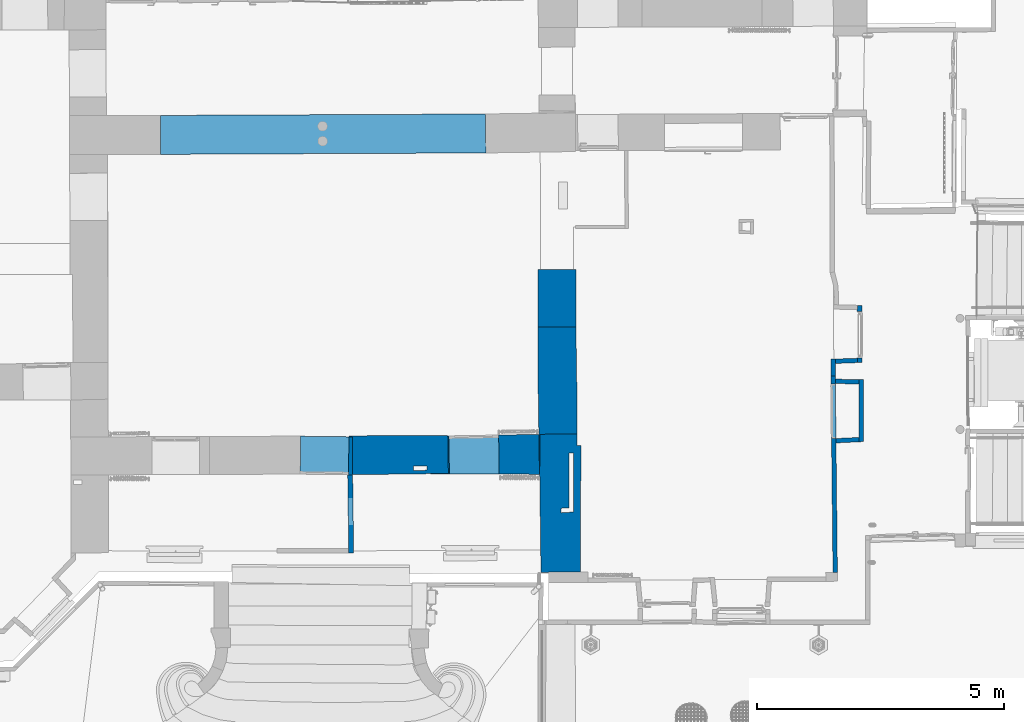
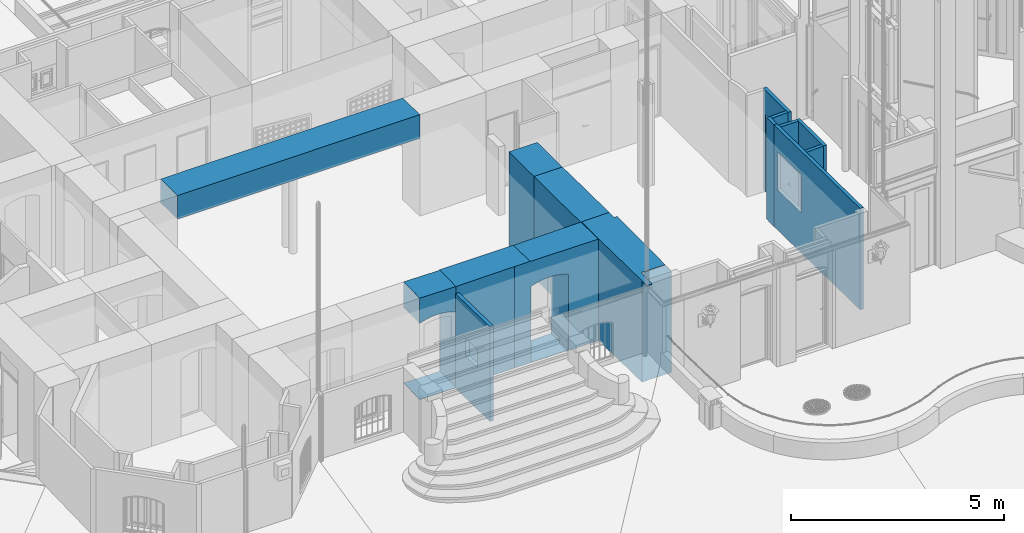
# One storey, part 18 of 133: 15 walls, 5 openings.
"""IFC2X3 building model written with IfcOpenShell, lengths in centimetres."""

from ifc_helpers import new_model, entity, si_unit, converted_unit, point, direction, frame, frame_2d, origin, origin_with_axes, place, context, subcontext, project, spatial, polyline, circle_curve, trimmed, segment, composite_curve, outline, extrude, clip, bounded_halfspace, shape, material, layer, layer_set, layer_usage, type_object, element, save


model = new_model("IFC2X3")

# Units and contexts
model_context = context("Model", 3, precision=0.0001, world=origin(), true_north=direction((0.225632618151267, 0.974212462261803, 0.0)))
body_context = subcontext(model_context, "Body", "Model", "MODEL_VIEW")
footprint_context = subcontext(model_context, "FootPrint", "Model", "MODEL_VIEW")
profile_context = subcontext(model_context, "Profile", "Model", "MODEL_VIEW")
ifc_project = project(units=[si_unit("LENGTHUNIT", "METRE", prefix="CENTI"), si_unit("AREAUNIT", "SQUARE_METRE", prefix="CENTI"), si_unit("VOLUMEUNIT", "CUBIC_METRE", prefix="CENTI"), converted_unit("PLANEANGLEUNIT", "DEGREE", entity("IfcRatioMeasure", 0.0174532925), si_unit("PLANEANGLEUNIT", "RADIAN"), dimensions=[0, 0, 0, 0, 0, 0, 0])], contexts=[model_context])

# Site, building, storey
site_placement = place(None, origin_with_axes())
site = spatial("IfcSite", under=ifc_project, at=site_placement, Name="Default Site", CompositionType="ELEMENT")
building_placement = place(site_placement, origin_with_axes())
building = spatial("IfcBuilding", under=site, at=building_placement, Name="Default Building", CompositionType="ELEMENT")
storey_placement = place(building_placement, frame((0.0, 0.0, -291.400371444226), z_axis=(0.0, 0.0, 1.0), x_axis=(1.0, 0.0, 0.0)))
storey = spatial("IfcBuildingStorey", under=building, at=storey_placement, Name="Rez-de-Jardin", CompositionType="ELEMENT", Elevation=-291.400371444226)

# Wall, opening
ifc_material = material(Name="<aucun>")
ifc_layer_1 = layer(ifc_material, 9.0)
ifc_layer_set_1 = layer_set([ifc_layer_1], Name="default")
ifc_layer_usage_1 = layer_usage(ifc_layer_set_1, "AXIS2", "POSITIVE", -4.5)
wall_type_1 = type_object("IfcWallType", Name="default 90", PredefinedType="NOTDEFINED", material=ifc_layer_set_1)
wall_1_placement = place(storey_placement, frame((882.115995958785, -521.164110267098, -1.94511073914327e-11), z_axis=(0.0, 0.0, 1.0), x_axis=(-0.00597783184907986, 0.99998213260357, 0.0)))
wall_1 = element("IfcWallStandardCase", 1, at=wall_1_placement, inside=storey, type_object=wall_type_1, material=ifc_layer_usage_1, Name="Enveloppe 594285", context=body_context, shape_type="SweptSolid", body=[
    extrude(outline(polyline([(102.64015241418, 4.50000000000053), (4.36391653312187, 4.50000000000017), (-4.63184186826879, 4.22371973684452), (-4.3623673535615, -4.55044169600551), (111.34330851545, -4.72054005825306), (111.635339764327, 4.20571351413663), (102.64015241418, 4.50000000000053)])), frame((0.0, 0.0, 1.77635683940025e-13), z_axis=(0.0, 0.0, 1.0), x_axis=(1.0, 0.0, 0.0)), (0.0, 0.0, 1.0), 291.413221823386),
])
opening_1_placement = place(wall_1_placement, frame((4.39772920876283, -1.13686837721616e-13, 1.94515514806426e-11), z_axis=(0.0, 0.0, 1.0), x_axis=(-0.999998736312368, 0.00158977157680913, 0.0)))
cartesian_point_1 = entity("IfcCartesianPoint", [0.0, -1.77635683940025e-13, 221.404157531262])
cartesian_point_2 = entity("IfcCartesianPoint", [-94.8801034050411, -0.150837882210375, 221.404157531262])
cartesian_point_3 = entity("IfcCartesianPoint", [-94.8729494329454, -4.65083219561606])
element("IfcOpeningElement", 2, at=opening_1_placement, cuts=wall_1, Name="4294966325_12", ObjectType="Opening", shapes=[
    shape(body_context, "Body", "SweptSolid", [extrude(outline(composite_curve([segment(polyline([(-0.00715397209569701, 221.404157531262), (-0.00715397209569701, -4.44089209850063e-14), (94.8729494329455, -4.44089209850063e-14), (94.8729494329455, 221.404157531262)]), True, "CONTINUOUS"), segment(trimmed(circle_curve(frame_2d((47.4328977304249, 117.040719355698), x_axis=(1.0, 0.0)), 114.63983348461), [point((94.8729494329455, 221.404157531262))], [point((-0.00715397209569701, 221.404157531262))], True, "CARTESIAN"), True, "CONTINUOUS")], self_intersect=False)), frame((0.0, -14.5, 0.0), z_axis=(0.0, 1.0, 0.0), x_axis=(-1.0, 0.0, 0.0)), (0.0, 0.0, 1.0), 29.2205400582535)]),
    shape(profile_context, "Profile", "GeometricCurveSet", [entity("IfcGeometricCurveSet", [entity("IfcCompositeCurve", [entity("IfcCompositeCurveSegment", "CONTINUOUS", True, entity("IfcPolyline", [cartesian_point_1, entity("IfcCartesianPoint", [0.0, -1.77635683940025e-13, -4.44089209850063e-14]), entity("IfcCartesianPoint", [-94.8801034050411, -0.150837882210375, -4.44089209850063e-14]), cartesian_point_2])), entity("IfcCompositeCurveSegment", "CONTINUOUS", True, entity("IfcTrimmedCurve", entity("IfcCircle", entity("IfcAxis2Placement3D", entity("IfcCartesianPoint", [-47.4400517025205, -0.0754189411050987, 117.040719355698]), entity("IfcDirection", [-0.00158977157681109, 0.999998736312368, -1.72789648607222e-14]), entity("IfcDirection", [0.999998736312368, 0.00158977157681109, 0.0])), 114.63983348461), [cartesian_point_2], [cartesian_point_1], True, "CARTESIAN"))], False)])]),
    shape(footprint_context, "FootPrint", "GeometricCurveSet", [entity("IfcGeometricCurveSet", [entity("IfcPolyline", [cartesian_point_3, entity("IfcCartesianPoint", [0.00715397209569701, -4.49999431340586]), entity("IfcCartesianPoint", [-0.00724527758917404, 4.55742733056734]), entity("IfcCartesianPoint", [-94.887588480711, 4.55742733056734]), cartesian_point_3])])]),
])

# Walls
ifc_layer_usage_2 = layer_usage(ifc_layer_set_1, "AXIS2", "POSITIVE", -4.5)
wall_2_placement = place(storey_placement, frame((834.133042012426, -684.130857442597, -1.94511073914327e-11), z_axis=(0.0, 0.0, 1.0), x_axis=(0.998789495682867, 0.0491888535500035, 0.0)))
element("IfcWallStandardCase", 3, at=wall_2_placement, inside=storey, type_object=wall_type_1, material=ifc_layer_usage_2, Name="Enveloppe 593062", context=body_context, shape_type="SweptSolid", body=[
    extrude(outline(polyline([(0.0132615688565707, 4.50000000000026), (-0.333957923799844, -4.4999999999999), (46.2406388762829, -4.49999999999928), (46.6848200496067, 4.50000000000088), (0.0132615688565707, 4.50000000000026)])), frame((0.0, 0.0, 8.88178419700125e-14), z_axis=(0.0, 0.0, 1.0), x_axis=(1.0, 0.0, 0.0)), (0.0, 0.0, 1.0), 291.413221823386),
])
ifc_layer_usage_3 = layer_usage(ifc_layer_set_1, "AXIS2", "POSITIVE", -4.5)
wall_3_placement = place(storey_placement, frame((880.647464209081, -564.710415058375, -1.94511073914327e-11), z_axis=(0.0, 0.0, 1.0), x_axis=(-0.999771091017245, 0.021395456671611, 0.0)))
element("IfcWallStandardCase", 4, at=wall_3_placement, inside=storey, type_object=wall_type_1, material=ifc_layer_usage_3, Name="Enveloppe 593879", context=body_context, shape_type="SweptSolid", body=[
    extrude(outline(polyline([(48.1124446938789, -4.50000000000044), (47.8239411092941, 4.49999999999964), (-0.000141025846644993, 4.49999999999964), (0.191519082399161, -4.50000000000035), (48.1124446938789, -4.50000000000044)])), frame((0.0, 0.0, 4.44089209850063e-14), z_axis=(0.0, 0.0, 1.0), x_axis=(1.0, 0.0, 0.0)), (0.0, 0.0, 1.0), 291.413221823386),
])
ifc_layer_usage_4 = layer_usage(ifc_layer_set_1, "AXIS2", "POSITIVE", -4.5)
wall_4_placement = place(storey_placement, frame((828.075616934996, -553.010682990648, -1.94511073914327e-11), z_axis=(0.0, 0.0, 1.0), x_axis=(0.00731207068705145, 0.999973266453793, 0.0)))
element("IfcWallStandardCase", 5, at=wall_4_placement, inside=storey, type_object=wall_type_1, material=ifc_layer_usage_4, Name="Enveloppe 593434", context=body_context, shape_type="SweptSolid", body=[
    extrude(outline(polyline([(-9.76996261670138e-12, 4.49999999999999), (-9.76996261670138e-12, -4.49999999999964), (34.5747221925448, -4.49999999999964), (34.1785328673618, 4.49999999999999), (-9.76996261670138e-12, 4.49999999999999)])), frame((0.0, 0.0, 1.33226762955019e-13), z_axis=(0.0, 0.0, 1.0), x_axis=(1.0, 0.0, 0.0)), (0.0, 0.0, 1.0), 291.413221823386),
])
ifc_layer_usage_5 = layer_usage(ifc_layer_set_1, "AXIS2", "POSITIVE", -4.5)
wall_5_placement = place(storey_placement, frame((823.995025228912, -523.296973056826, -1.94511073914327e-11), z_axis=(0.0, 0.0, 1.0), x_axis=(0.999327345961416, 0.0366722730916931, 0.0)))
element("IfcWallStandardCase", 6, at=wall_5_placement, inside=storey, type_object=wall_type_1, material=ifc_layer_usage_5, Name="Enveloppe 593609", context=body_context, shape_type="SweptSolid", body=[
    extrude(outline(polyline([(8.60817694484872, -4.50000000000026), (53.7961758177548, -4.50000000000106), (53.7961758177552, 4.49999999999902), (9.00436627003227, 4.49999999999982), (8.60817694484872, -4.50000000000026)])), frame((0.0, 0.0, 1.33226762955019e-13), z_axis=(0.0, 0.0, 1.0), x_axis=(1.0, 0.0, 0.0)), (0.0, 0.0, 1.0), 291.413221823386),
])
ifc_layer_usage_6 = layer_usage(ifc_layer_set_1, "AXIS2", "POSITIVE", -4.5)
wall_6_placement = place(storey_placement, frame((885.04000002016, -677.340403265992, -1.94511073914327e-11), z_axis=(0.0, 0.0, 1.0), x_axis=(0.000104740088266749, 0.999999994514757, 0.0)))
element("IfcWallStandardCase", 7, at=wall_6_placement, inside=storey, type_object=wall_type_1, material=ifc_layer_usage_6, Name="Enveloppe 74047", context=body_context, shape_type="SweptSolid", body=[
    extrude(outline(polyline([(-9.01095427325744, 4.49999999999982), (-8.56677309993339, -4.49999999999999), (116.940924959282, -4.50000000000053), (117.132585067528, 4.49999999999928), (-9.01095427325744, 4.49999999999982)])), frame((0.0, 0.0, 8.88178419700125e-14), z_axis=(0.0, 0.0, 1.0), x_axis=(1.0, 0.0, 0.0)), (0.0, 0.0, 1.0), 291.413221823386),
])

# Wall, opening
ifc_layer_usage_7 = layer_usage(ifc_layer_set_1, "AXIS2", "POSITIVE", -4.5)
wall_7_placement = place(storey_placement, frame((832.311981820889, -950.787007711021, -1.94511073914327e-11), z_axis=(0.0, 0.0, 1.0), x_axis=(-0.0106476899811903, 0.999943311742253, 0.0)))
wall_7 = element("IfcWallStandardCase", 8, at=wall_7_placement, inside=storey, type_object=wall_type_1, material=ifc_layer_usage_7, Name="Enveloppe 53200", context=body_context, shape_type="SweptSolid", body=[
    extrude(outline(polyline([(-0.144110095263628, 4.49999999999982), (0.0, -4.49999999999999), (271.11880996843, -4.50000000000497), (391.579233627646, -4.50000000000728), (391.582812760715, -4.38834732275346), (397.718067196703, -4.49854850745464), (397.879698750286, 4.49999999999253), (271.11880996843, 4.49999999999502), (-0.144110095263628, 4.49999999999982)])), frame((0.0, 0.0, 1.33226762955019e-13), z_axis=(0.0, 0.0, 1.0), x_axis=(1.0, 0.0, 0.0)), (0.0, 0.0, 1.0), 291.413221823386),
])
opening_2_placement = place(wall_7_placement, frame((271.425611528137, -5.00222085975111e-12, 115.705861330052), z_axis=(0.0, 0.0, 1.0), x_axis=(1.0, -1.89275678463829e-14, 0.0)))
cartesian_point_4 = entity("IfcCartesianPoint", [0.0, 0.0, 109.0])
cartesian_point_5 = entity("IfcCartesianPoint", [110.665434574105, 4.49999999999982])
element("IfcOpeningElement", 9, at=opening_2_placement, cuts=wall_7, Name="4294966326_11", ObjectType="Opening", shapes=[
    shape(body_context, "Body", "SweptSolid", [extrude(outline(polyline([(8.88178419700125e-14, 109.0), (8.88178419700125e-14, 0.0), (110.665434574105, 0.0), (110.665434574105, 109.0), (8.88178419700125e-14, 109.0)])), frame((0.0, 14.5, 0.0), z_axis=(0.0, -1.0, 0.0), x_axis=(1.0, 0.0, 0.0)), (0.0, 0.0, 1.0), 29.0)]),
    shape(profile_context, "Profile", "GeometricCurveSet", [entity("IfcGeometricCurveSet", [entity("IfcPolyline", [cartesian_point_4, entity("IfcCartesianPoint", [0.0, 0.0, 0.0]), entity("IfcCartesianPoint", [110.665434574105, -1.77635683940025e-13, 0.0]), entity("IfcCartesianPoint", [110.665434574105, -1.77635683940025e-13, 109.0]), cartesian_point_4])])]),
    shape(footprint_context, "FootPrint", "GeometricCurveSet", [entity("IfcGeometricCurveSet", [entity("IfcPolyline", [cartesian_point_5, entity("IfcCartesianPoint", [8.88178419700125e-14, 4.49999999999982]), entity("IfcCartesianPoint", [0.0, -4.49999999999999]), entity("IfcCartesianPoint", [110.665434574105, -4.49999999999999]), cartesian_point_5])])]),
])

ifc_layer_2 = layer(ifc_material, 10.0)
ifc_layer_set_2 = layer_set([ifc_layer_2], Name="default")
ifc_layer_usage_8 = layer_usage(ifc_layer_set_2, "AXIS2", "POSITIVE", -5.0)
wall_type_2 = type_object("IfcWallType", Name="default 100", PredefinedType="NOTDEFINED", material=ifc_layer_set_2)
wall_8_placement = place(storey_placement, frame((-148.861364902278, -902.325236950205, -1.94511073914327e-11), z_axis=(0.0, 0.0, 1.0), x_axis=(-0.0133461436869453, 0.999910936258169, 0.0)))
wall_8 = element("IfcWallStandardCase", 10, at=wall_8_placement, inside=storey, type_object=wall_type_2, material=ifc_layer_usage_8, Name="Enveloppe 72368", context=body_context, shape_type="SweptSolid", body=[
    extrude(outline(polyline([(149.327648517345, 5.00000000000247), (-9.00040519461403, 4.99999999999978), (-9.09529738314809, -5.00000000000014), (149.072238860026, -4.99999999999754), (149.327648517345, 5.00000000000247)])), frame((0.0, 0.0, 8.88178419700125e-14), z_axis=(0.0, 0.0, 1.0), x_axis=(1.0, 0.0, 0.0)), (0.0, 0.0, 1.0), 271.400371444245),
])
opening_3_placement = place(wall_8_placement, frame((47.5246104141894, 7.95807864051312e-13, 120.102565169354), z_axis=(0.0, 0.0, 1.0), x_axis=(-1.0, -1.6603038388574e-14, 0.0)))
cartesian_point_6 = entity("IfcCartesianPoint", [0.0, 0.0, 52.0])
cartesian_point_7 = entity("IfcCartesianPoint", [-54.7169568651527, -5.0])
element("IfcOpeningElement", 11, at=opening_3_placement, cuts=wall_8, Name="4294966473_11", ObjectType="Opening", shapes=[
    shape(body_context, "Body", "SweptSolid", [extrude(outline(polyline([(1.77635683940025e-13, 52.0), (1.77635683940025e-13, -2.22044604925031e-14), (54.7169568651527, -2.22044604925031e-14), (54.7169568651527, 52.0), (1.77635683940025e-13, 52.0)])), frame((0.0, -15.0, 0.0), z_axis=(0.0, 1.0, 0.0), x_axis=(-1.0, 0.0, 0.0)), (0.0, 0.0, 1.0), 30.0)]),
    shape(profile_context, "Profile", "GeometricCurveSet", [entity("IfcGeometricCurveSet", [entity("IfcPolyline", [cartesian_point_6, entity("IfcCartesianPoint", [0.0, 0.0, -2.22044604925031e-14]), entity("IfcCartesianPoint", [-54.7169568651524, 2.22044604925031e-14, -2.22044604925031e-14]), entity("IfcCartesianPoint", [-54.7169568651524, 2.22044604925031e-14, 52.0]), cartesian_point_6])])]),
    shape(footprint_context, "FootPrint", "GeometricCurveSet", [entity("IfcGeometricCurveSet", [entity("IfcPolyline", [cartesian_point_7, entity("IfcCartesianPoint", [-1.77635683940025e-13, -4.99999999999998]), entity("IfcCartesianPoint", [1.77635683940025e-13, 5.00000000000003]), entity("IfcCartesianPoint", [-54.7169568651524, 5.00000000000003]), cartesian_point_7])])]),
])

ifc_layer_3 = layer(ifc_material, 77.0)
ifc_layer_set_3 = layer_set([ifc_layer_3], Name="default")
ifc_layer_usage_9 = layer_usage(ifc_layer_set_3, "AXIS2", "POSITIVE", -38.5)
wall_type_3 = type_object("IfcWallType", Name="default 770", PredefinedType="NOTDEFINED", material=ifc_layer_set_3)
wall_9_placement = place(storey_placement, frame((-152.746036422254, -714.612641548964, -1.94511073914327e-11), z_axis=(0.0, 0.0, 1.0), x_axis=(-0.999925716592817, 0.0121885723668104, 0.0)))
wall_9 = element("IfcWallStandardCase", 12, at=wall_9_placement, inside=storey, type_object=wall_type_3, material=ifc_layer_usage_9, Name="Enveloppe 72358", context=body_context, shape_type="Clipping", body=[
    clip(clip(extrude(outline(polyline([(99.0413401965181, 38.4999999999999), (-7.36449377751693, 38.5000000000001), (-6.16412192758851, -38.5), (99.041340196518, -38.5000000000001), (99.0413401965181, 38.4999999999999)])), frame((0.0, 0.0, 1.33226762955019e-13), z_axis=(0.0, 0.0, 1.0), x_axis=(1.0, 0.0, 0.0)), (0.0, 0.0, 1.0), 291.413221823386), bounded_halfspace(frame((-6.16412192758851, -38.5, 271.400371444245), z_axis=(0.0, 0.0, -1.0), x_axis=(1.0, 2.11983208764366e-15, 0.0)), True, frame((-6.16412192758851, -38.5, 271.400371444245), z_axis=(0.0, 0.0, 1.0), x_axis=(1.0, 0.0, 0.0)), polyline([(-1.19557827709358, 76.8123182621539), (0.0, 0.0), (7.36262145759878, 0.0), (7.36262145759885, 77.0), (6.16412192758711, 77.0), (-1.19557827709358, 76.8123182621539)]))), bounded_halfspace(frame((-7.35970020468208, 38.3123182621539, 271.400371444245), z_axis=(0.0, 0.0, -1.0), x_axis=(0.999675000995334, 0.0254929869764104, 0.0)), True, frame((-7.35970020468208, 38.3123182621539, 271.400371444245), z_axis=(0.0, 0.0, 1.0), x_axis=(1.0, 0.0, 0.0)), polyline([(0.0, 8.88178419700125e-14), (7.35970020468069, 0.187681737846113), (-0.00479357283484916, 0.187681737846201), (0.0, 8.88178419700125e-14)]))),
])
opening_4_placement = place(wall_9_placement, frame((1.04134019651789, -1.13686837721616e-13, 1.71179622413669), z_axis=(0.0, 0.0, 1.0), x_axis=(-1.0, 2.60208521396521e-16, 0.0)))
cartesian_point_8 = entity("IfcCartesianPoint", [-2.22044604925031e-14, -8.88178419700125e-14, 217.0])
cartesian_point_9 = entity("IfcCartesianPoint", [-98.0, -8.88178419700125e-14, 217.0])
cartesian_point_10 = entity("IfcCartesianPoint", [-98.0, -38.5000000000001])
element("IfcOpeningElement", 13, at=opening_4_placement, cuts=wall_9, Name="4294966479_12", ObjectType="Opening", shapes=[
    shape(body_context, "Body", "SweptSolid", [extrude(outline(composite_curve([segment(polyline([(2.22044604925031e-14, 217.0), (0.0, 4.44089209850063e-14), (98.0, 4.44089209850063e-14), (98.0, 217.0)]), True, "CONTINUOUS"), segment(trimmed(circle_curve(frame_2d((49.0, 98.1264851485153), x_axis=(1.0, 0.0)), 128.576485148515), [point((98.0, 217.0))], [point((2.22044604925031e-14, 217.0))], True, "CARTESIAN"), True, "CONTINUOUS")], self_intersect=False)), frame((0.0, -48.5, 0.0), z_axis=(0.0, 1.0, 0.0), x_axis=(-1.0, 0.0, 0.0)), (0.0, 0.0, 1.0), 97.0)]),
    shape(profile_context, "Profile", "GeometricCurveSet", [entity("IfcGeometricCurveSet", [entity("IfcCompositeCurve", [entity("IfcCompositeCurveSegment", "CONTINUOUS", True, entity("IfcPolyline", [cartesian_point_8, entity("IfcCartesianPoint", [0.0, -8.88178419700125e-14, 4.44089209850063e-14]), entity("IfcCartesianPoint", [-98.0, -8.88178419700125e-14, 4.44089209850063e-14]), cartesian_point_9])), entity("IfcCompositeCurveSegment", "CONTINUOUS", True, entity("IfcTrimmedCurve", entity("IfcCircle", entity("IfcAxis2Placement3D", entity("IfcCartesianPoint", [-49.0, -8.88178419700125e-14, 98.1264851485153]), entity("IfcDirection", [0.0, 1.0, 0.0]), entity("IfcDirection", [1.0, 0.0, 0.0])), 128.576485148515), [cartesian_point_9], [cartesian_point_8], True, "CARTESIAN"))], False)])]),
    shape(footprint_context, "FootPrint", "GeometricCurveSet", [entity("IfcGeometricCurveSet", [entity("IfcPolyline", [cartesian_point_10, entity("IfcCartesianPoint", [0.0, -38.5000000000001]), entity("IfcCartesianPoint", [-2.22044604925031e-14, 38.4999999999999]), entity("IfcCartesianPoint", [-98.0, 38.4999999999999]), cartesian_point_10])])]),
])

# Wall
ifc_layer_usage_10 = layer_usage(ifc_layer_set_3, "AXIS2", "POSITIVE", -38.5)
wall_10_placement = place(storey_placement, frame((268.641476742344, -573.716825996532, -1.94511073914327e-11), z_axis=(0.0, 0.0, 1.0), x_axis=(-0.00304589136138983, 0.999995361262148, 0.0)))
element("IfcWallStandardCase", 14, at=wall_10_placement, inside=storey, type_object=wall_type_3, material=ifc_layer_usage_10, Name="Enveloppe 69960", context=body_context, shape_type="SweptSolid", body=[
    extrude(outline(polyline([(236.857943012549, 38.4999999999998), (119.888972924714, 38.4999999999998), (119.888972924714, -38.5000000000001), (236.542523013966, -38.5000000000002), (236.857943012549, 38.4999999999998)])), frame((0.0, 0.0, 1.33226762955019e-13), z_axis=(0.0, 0.0, 1.0), x_axis=(1.0, 0.0, 0.0)), (0.0, 0.0, 1.0), 291.413221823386),
])

# Wall, opening
ifc_layer_usage_11 = layer_usage(ifc_layer_set_3, "AXIS2", "POSITIVE", -38.5)
wall_11_placement = place(storey_placement, frame((47.5231606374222, -712.71886798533, -1.94511073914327e-11), z_axis=(0.0, 0.0, 1.0), x_axis=(0.999869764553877, 0.0161385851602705, 0.0)))
wall_11 = element("IfcWallStandardCase", 15, at=wall_11_placement, inside=storey, type_object=wall_type_3, material=ifc_layer_usage_11, Name="Enveloppe 68570", context=body_context, shape_type="SweptSolid", body=[
    extrude(outline(polyline([(-42.5850705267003, -37.5957474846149), (184.643338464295, -42.4207215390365), (184.738052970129, 38.5000000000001), (1.58761892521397e-12, 38.5000000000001), (1.55986334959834e-12, -38.1393536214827), (-42.5850705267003, -37.5957474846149)])), frame((0.0, 0.0, 8.88178419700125e-14), z_axis=(0.0, 0.0, 1.0), x_axis=(1.0, 0.0, 0.0)), (0.0, 0.0, 1.0), 291.413221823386),
])
opening_5_placement = place(wall_11_placement, frame((2.19796612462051, 0.0, 1.60307776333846), z_axis=(0.0, 0.0, 1.0), x_axis=(-1.0, -3.81639164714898e-17, 0.0)))
cartesian_point_11 = entity("IfcCartesianPoint", [-1.11022302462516e-14, -8.88178419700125e-14, 217.0])
cartesian_point_12 = entity("IfcCartesianPoint", [-101.0, -8.88178419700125e-14, 217.0])
cartesian_point_13 = entity("IfcCartesianPoint", [-101.0, -38.5000000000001])
element("IfcOpeningElement", 16, at=opening_5_placement, cuts=wall_11, Name="4294966478_12", ObjectType="Opening", shapes=[
    shape(body_context, "Body", "SweptSolid", [extrude(outline(composite_curve([segment(polyline([(1.11022302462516e-14, 217.0), (0.0, 4.44089209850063e-14), (101.0, 4.44089209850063e-14), (101.0, 217.0)]), True, "CONTINUOUS"), segment(trimmed(circle_curve(frame_2d((50.5, 94.4875000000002), x_axis=(1.0, 0.0)), 132.5125), [point((101.0, 217.0))], [point((1.11022302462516e-14, 217.0))], True, "CARTESIAN"), True, "CONTINUOUS")], self_intersect=False)), frame((0.0, -48.5000000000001, 0.0), z_axis=(0.0, 1.0, 0.0), x_axis=(-1.0, 0.0, 0.0)), (0.0, 0.0, 1.0), 100.922167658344)]),
    shape(profile_context, "Profile", "GeometricCurveSet", [entity("IfcGeometricCurveSet", [entity("IfcCompositeCurve", [entity("IfcCompositeCurveSegment", "CONTINUOUS", True, entity("IfcPolyline", [cartesian_point_11, entity("IfcCartesianPoint", [0.0, -8.88178419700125e-14, 4.44089209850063e-14]), entity("IfcCartesianPoint", [-101.0, -8.88178419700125e-14, 4.44089209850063e-14]), cartesian_point_12])), entity("IfcCompositeCurveSegment", "CONTINUOUS", True, entity("IfcTrimmedCurve", entity("IfcCircle", entity("IfcAxis2Placement3D", entity("IfcCartesianPoint", [-50.5, -8.88178419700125e-14, 94.4875000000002]), entity("IfcDirection", [0.0, 1.0, 0.0]), entity("IfcDirection", [1.0, 0.0, 0.0])), 132.5125), [cartesian_point_12], [cartesian_point_11], True, "CARTESIAN"))], False)])]),
    shape(footprint_context, "FootPrint", "GeometricCurveSet", [entity("IfcGeometricCurveSet", [entity("IfcPolyline", [cartesian_point_13, entity("IfcCartesianPoint", [-5.55111512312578e-15, -38.5000000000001]), entity("IfcCartesianPoint", [-1.11022302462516e-14, 38.5466716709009]), entity("IfcCartesianPoint", [-101.0, 40.6913083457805]), cartesian_point_13])])]),
])

# Walls
ifc_layer_usage_12 = layer_usage(ifc_layer_set_3, "AXIS2", "POSITIVE", -38.5)
wall_12_placement = place(storey_placement, frame((-153.351914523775, -712.628085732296, -1.94511073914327e-11), z_axis=(0.0, 0.0, 1.0), x_axis=(0.999994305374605, 0.0033747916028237, 0.0)))
element("IfcWallStandardCase", 17, at=wall_12_placement, inside=storey, type_object=wall_type_3, material=ifc_layer_usage_12, Name="Enveloppe 53161", context=body_context, shape_type="Clipping", body=[
    clip(clip(extrude(outline(polyline([(-1.19835437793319, -40.4632741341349), (2.22044604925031e-14, -40.4819264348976), (158.771900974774, -38.9049398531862), (201.360440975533, -38.9049398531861), (200.382205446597, 38.5000000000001), (2.22044604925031e-14, 38.5), (8.88178419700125e-14, 36.5274002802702), (-1.19835437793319, -40.4632741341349)])), frame((0.0, 0.0, 8.88178419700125e-14), z_axis=(0.0, 0.0, 1.0), x_axis=(1.0, 0.0, 0.0)), (0.0, 0.0, 1.0), 291.413221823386), bounded_halfspace(frame((-1.19835437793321, -40.4632741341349, 271.400371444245), z_axis=(0.0, 0.0, 1.0), x_axis=(0.0155630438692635, 0.999878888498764, 0.0)), True, frame((-1.19835437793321, -40.4632741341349, 271.400371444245), z_axis=(0.0, 0.0, 1.0), x_axis=(1.0, 0.0, 0.0)), polyline([(2.22044604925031e-14, 0.0), (1.19835437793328, 76.990674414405), (8.56008413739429, 76.8760896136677), (8.56008413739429, 0.0544673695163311), (1.19835437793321, -0.018652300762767), (2.22044604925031e-14, 0.0)]))), bounded_halfspace(frame((131.112670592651, -31.877820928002, 281.400371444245), z_axis=(0.0, 0.0, 1.0), x_axis=(0.0071952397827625, 0.99997411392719, 0.0)), True, frame((131.112670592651, -31.877820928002, 281.400371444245), z_axis=(0.0, 0.0, 1.0), x_axis=(1.0, 0.0, 0.0)), polyline([(6.66133814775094e-14, 0.0), (0.0647600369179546, 9.00016712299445), (27.2975984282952, 9.06100229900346), (27.2715202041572, 0.0609215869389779), (6.66133814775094e-14, 0.0)]))),
])
ifc_layer_usage_13 = layer_usage(ifc_layer_set_3, "AXIS2", "POSITIVE", -38.5)
wall_13_placement = place(storey_placement, frame((270.451812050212, -693.398849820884, -1.94511073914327e-11), z_axis=(0.0, 0.0, 1.0), x_axis=(-0.0149682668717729, 0.99988796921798, 0.0)))
element("IfcWallStandardCase", 18, at=wall_13_placement, inside=storey, type_object=wall_type_3, material=ifc_layer_usage_13, Name="Enveloppe 53189", context=body_context, shape_type="SweptSolid", body=[
    extrude(outline(polyline([(240.035186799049, 37.0865696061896), (121.493566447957, 38.5000000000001), (-58.1855730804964, 38.5), (-58.1966599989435, 37.9473966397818), (22.835203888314, 36.4440642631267), (22.835203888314, -38.7678064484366), (120.053103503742, -39.9079574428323), (239.11714295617, -39.9079574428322), (240.035186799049, 37.0865696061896)])), frame((0.0, 0.0, 4.44089209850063e-14), z_axis=(0.0, 0.0, 1.0), x_axis=(1.0, 0.0, 0.0)), (0.0, 0.0, 1.0), 291.413221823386),
])
ifc_layer_4 = layer(ifc_material, 79.0)
ifc_layer_set_4 = layer_set([ifc_layer_4], Name="default")
ifc_layer_usage_14 = layer_usage(ifc_layer_set_4, "AXIS2", "POSITIVE", -39.5)
wall_type_4 = type_object("IfcWallType", Name="default 790", PredefinedType="NOTDEFINED", material=ifc_layer_set_4)
wall_14_placement = place(storey_placement, frame((-535.118222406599, -64.1567853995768, 223.6), z_axis=(0.0, 0.0, 1.0), x_axis=(0.999990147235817, 0.0044390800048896, 0.0)))
element("IfcWallStandardCase", 19, at=wall_14_placement, inside=storey, type_object=wall_type_4, material=ifc_layer_usage_14, Name="Enveloppe 69980", context=body_context, shape_type="SweptSolid", body=[
    extrude(outline(polyline([(328.361687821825, 39.4999999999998), (0.11492142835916, 39.5), (0.114921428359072, -39.5), (328.361687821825, -39.5000000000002), (658.570183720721, -39.5000000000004), (659.233323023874, -39.4938340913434), (658.351113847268, 39.5012398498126), (328.361687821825, 39.4999999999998)])), frame((0.0, 0.0, -1.11022302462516e-14), z_axis=(0.0, 0.0, 1.0), x_axis=(1.0, 0.0, 0.0)), (0.0, 0.0, 1.0), 67.8132218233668),
])
ifc_layer_5 = layer(ifc_material, 80.0)
ifc_layer_set_5 = layer_set([ifc_layer_5], Name="default")
ifc_layer_usage_15 = layer_usage(ifc_layer_set_5, "AXIS2", "POSITIVE", -40.0)
wall_type_5 = type_object("IfcWallType", Name="default 800", PredefinedType="NOTDEFINED", material=ifc_layer_set_5)
wall_15_placement = place(storey_placement, frame((275.883641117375, -951.093012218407, -1.94511073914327e-11), z_axis=(0.0, 0.0, 1.0), x_axis=(0.00358139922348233, 0.999993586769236, 0.0)))
element("IfcWallStandardCase", 20, at=wall_15_placement, inside=storey, type_object=wall_type_5, material=ifc_layer_usage_15, Name="Enveloppe 68533", context=body_context, shape_type="Clipping", body=[
    clip(clip(clip(clip(clip(clip(clip(clip(extrude(outline(polyline([(279.828324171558, 43.2160679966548), (198.782516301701, 43.2160679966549), (50.0562660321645, 40.8098516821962), (41.0560170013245, 40.8098516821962), (41.0565359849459, 40.664941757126), (16.8107093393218, 40.2719775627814), (-22.9893152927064, 40.2719775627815), (-22.9954198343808, 34.7850472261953), (-23.1290305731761, 25.7860390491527), (-3.5527136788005e-13, 25.4426359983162), (-1.77635683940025e-13, 25.0000000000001), (0.734507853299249, 25.0000000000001), (0.734507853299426, -40.0), (41.0571001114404, -40.0), (45.2007475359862, -39.9999999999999), (257.751972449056, -40.0000000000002), (257.751972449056, -32.1430103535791), (281.223441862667, -31.9828624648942), (279.828324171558, 43.2160679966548)])), origin_with_axes(), (0.0, 0.0, 1.0), 291.413221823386), bounded_halfspace(frame((-22.9893152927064, 40.2719775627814, 289.400371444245), z_axis=(0.0, 0.0, 1.0), x_axis=(1.0, -2.51014486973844e-15, 0.0)), True, frame((-22.9893152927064, 40.2719775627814, 289.400371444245), z_axis=(0.0, 0.0, 1.0), x_axis=(1.0, 0.0, 0.0)), polyline([(-0.0148887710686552, -13.3824378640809), (1.77635683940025e-13, 0.0), (39.8000246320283, -8.88178419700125e-14), (22.9893152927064, -0.271977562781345), (22.9893152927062, -13.5801739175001), (-0.0148887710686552, -13.3824378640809)]))), bounded_halfspace(frame((-23.1290305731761, 25.7860390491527, 289.400371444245), z_axis=(0.0, 0.0, 1.0), x_axis=(0.0148456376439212, 0.999889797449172, 0.0)), True, frame((-23.1290305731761, 25.7860390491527, 289.400371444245), z_axis=(0.0, 0.0, 1.0), x_axis=(1.0, 0.0, 0.0)), polyline([(1.77635683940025e-13, 0.0), (0.0163978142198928, 1.10443266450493), (23.1290305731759, 0.9057645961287), (23.1290305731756, -0.343403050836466), (1.77635683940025e-13, 0.0)]))), bounded_halfspace(frame((-23.1126327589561, 26.8904717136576, 289.400371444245), z_axis=(0.0, 0.0, 1.0), x_axis=(0.0148456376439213, 0.999889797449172, 0.0)), True, frame((-23.1126327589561, 26.8904717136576, 289.400371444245), z_axis=(0.0, 0.0, 1.0), x_axis=(1.0, 0.0, 0.0)), polyline([(-1.77635683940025e-13, 0.0), (0.117212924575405, 7.89457551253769), (0.10842869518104, -0.000932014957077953), (-1.77635683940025e-13, 0.0)]))), bounded_halfspace(frame((122.597826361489, -25.3220571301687, 281.400371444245), z_axis=(0.0, 0.0, 1.0), x_axis=(-0.0650999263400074, 0.997878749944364, 0.0)), True, frame((122.597826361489, -25.3220571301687, 281.400371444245), z_axis=(0.0, 0.0, 1.0), x_axis=(1.0, 0.0, 0.0)), polyline([(-0.587118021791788, 8.99958925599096), (119.774997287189, 9.08425024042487), (119.781305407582, 0.116025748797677), (131.195611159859, 0.0922811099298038), (0.0, 0.0), (-0.587118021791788, 8.99958925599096)]))), bounded_halfspace(frame((120.977159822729, -0.479806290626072, 281.400371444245), z_axis=(0.0, 0.0, 1.0), x_axis=(0.999997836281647, -0.00208024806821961, 0.0)), True, frame((120.977159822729, -0.479806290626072, 281.400371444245), z_axis=(0.0, 0.0, 1.0), x_axis=(1.0, 0.0, 0.0)), polyline([(1.77635683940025e-13, 4.44089209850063e-14), (9.02035600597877, -0.0187646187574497), (10.0522665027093, -15.8363179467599), (1.033548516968, -15.8426615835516), (1.77635683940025e-13, 4.44089209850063e-14)]))), bounded_halfspace(frame((0.734507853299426, -40.0, 289.400371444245), z_axis=(0.0, 0.0, -1.0), x_axis=(1.0, 2.76688394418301e-16, 0.0)), True, frame((0.734507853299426, -40.0, 289.400371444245), z_axis=(0.0, 0.0, 1.0), x_axis=(1.0, 0.0, 0.0)), polyline([(1.77635683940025e-13, 0.0), (29.178103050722, 0.0), (29.1781030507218, 64.9999999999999), (-3.5527136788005e-13, 65.0000000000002), (1.77635683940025e-13, 0.0)]))), bounded_halfspace(frame((-3.5527136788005e-13, 25.4426359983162, 289.400371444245), z_axis=(0.0, 0.0, -1.0), x_axis=(3.14466768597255e-13, -1.0, 0.0)), True, frame((-3.5527136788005e-13, 25.4426359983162, 289.400371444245), z_axis=(0.0, 0.0, 1.0), x_axis=(1.0, 0.0, 0.0)), polyline([(1.77635683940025e-13, -0.44263599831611), (29.8126109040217, -0.442635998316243), (-1.77635683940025e-13, 4.44089209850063e-14), (1.77635683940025e-13, -0.44263599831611)]))), bounded_halfspace(frame((41.0571001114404, 40.6642557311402, 271.400371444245), z_axis=(0.0, 0.0, -1.0), x_axis=(0.999869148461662, 0.01617671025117, 0.0)), True, frame((41.0571001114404, 40.6642557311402, 271.400371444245), z_axis=(0.0, 0.0, 1.0), x_axis=(1.0, 0.0, 0.0)), polyline([(1.77635683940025e-13, 4.44089209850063e-14), (8.99916592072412, 0.145595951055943), (-0.00108311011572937, 0.145595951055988), (1.77635683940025e-13, 4.44089209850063e-14)]))),
])

save(model, "model.ifc")
